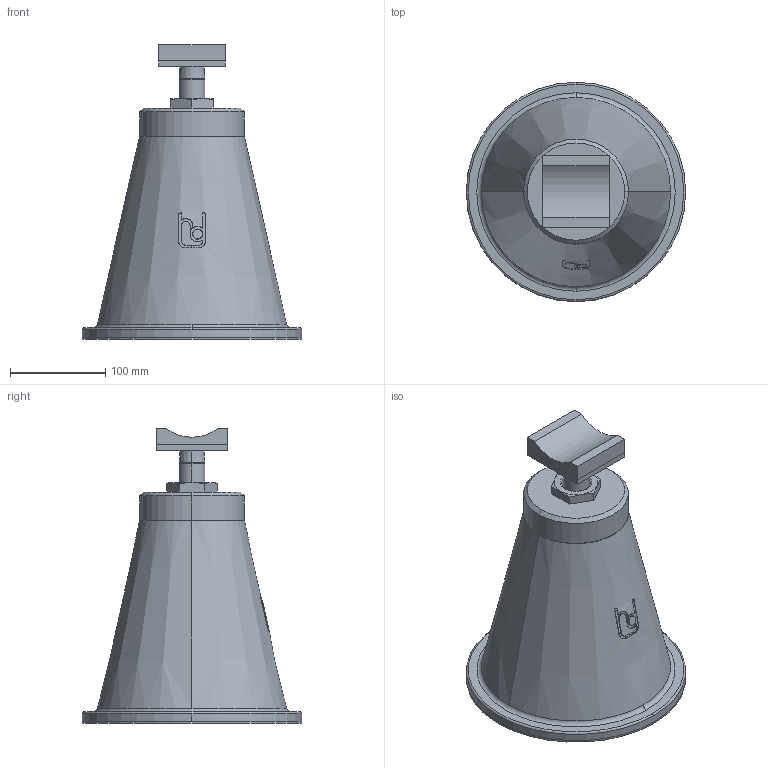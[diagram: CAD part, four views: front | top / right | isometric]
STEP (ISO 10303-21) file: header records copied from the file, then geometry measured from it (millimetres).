
FILE_DESCRIPTION(('STEP AP214'),'1');
FILE_NAME('RSRFA_DN80.stp','2018-06-25T09:47:30',(' '),(' '),'Spatial InterOp 3D',' ',' ');
FILE_SCHEMA(('automotive_design'));
Length unit declared in the file: millimetre
Products named in the file (6): 1; 2; 3; 4; 5; 6
Bounding box: 230 x 230 x 309 mm (x, y, z)
Volume: 4935797.7 mm3; surface area: 335865.4 mm2
Topology: 6 solids, 7 shells, 118 faces, 279 edges, 179 vertices
Faces by surface type: plane 51, cylinder 34, cone 25, torus 8
Entity records: 4842 total; most frequent: CARTESIAN_POINT 1040, DIRECTION 588, ORIENTED_EDGE 558, EDGE_CURVE 279, AXIS2_PLACEMENT_3D 227, VERTEX_POINT 179, LINE 134, VECTOR 134
